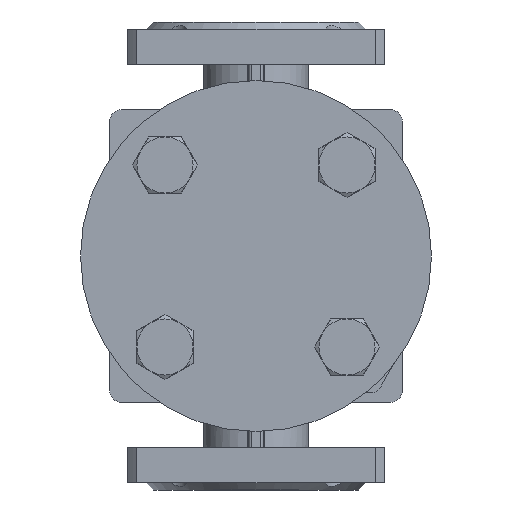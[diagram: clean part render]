
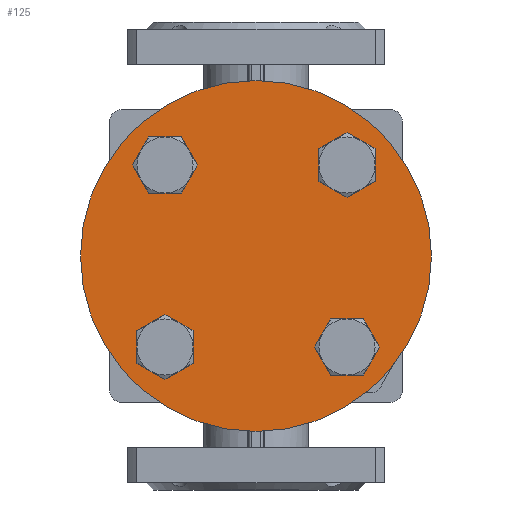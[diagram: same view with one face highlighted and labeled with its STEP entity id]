
A CAD part, front view. The second image highlights one B-rep face of the part: STEP entity #125.
In plain terms, the highlighted planar face has unit normal (0, -1, 0).
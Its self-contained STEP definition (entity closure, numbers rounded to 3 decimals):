
#125=ADVANCED_FACE('',(#9210,#9212,#9214,#9216,#9218),#9220,.F.);
#9210=FACE_BOUND('',#9211,.T.);
#9211=EDGE_LOOP('',(#22661));
#9212=FACE_BOUND('',#9213,.T.);
#9213=EDGE_LOOP('',(#22662));
#9214=FACE_BOUND('',#9215,.T.);
#9215=EDGE_LOOP('',(#22663));
#9216=FACE_BOUND('',#9217,.T.);
#9217=EDGE_LOOP('',(#22664));
#9218=FACE_BOUND('',#9219,.T.);
#9219=EDGE_LOOP('',(#22665));
#9220=PLANE('',#9221);
#9221=AXIS2_PLACEMENT_3D('',#9222,#9223,#9224);
#9222=CARTESIAN_POINT('',(0.,-120.,0.));
#9223=DIRECTION('',(0.,1.,0.));
#9224=DIRECTION('',(-1.,0.,0.));
#22661=ORIENTED_EDGE('',*,*,#30617,.F.);
#22662=ORIENTED_EDGE('',*,*,#30618,.F.);
#22663=ORIENTED_EDGE('',*,*,#30619,.F.);
#22664=ORIENTED_EDGE('',*,*,#30620,.F.);
#22665=ORIENTED_EDGE('',*,*,#30621,.F.);
#30617=EDGE_CURVE('',#34364,#34364,#34365,.T.);
#30618=EDGE_CURVE('',#34366,#34366,#34367,.T.);
#30619=EDGE_CURVE('',#34368,#34368,#34369,.T.);
#30620=EDGE_CURVE('',#34370,#34370,#34371,.T.);
#30621=EDGE_CURVE('',#34372,#34372,#34373,.T.);
#34364=VERTEX_POINT('',#40559);
#34365=CIRCLE('',#40560,75.);
#34366=VERTEX_POINT('',#40564);
#34367=CIRCLE('',#40565,12.);
#34368=VERTEX_POINT('',#40569);
#34369=CIRCLE('',#40570,12.);
#34370=VERTEX_POINT('',#40574);
#34371=CIRCLE('',#40575,12.);
#34372=VERTEX_POINT('',#40579);
#34373=CIRCLE('',#40580,12.);
#40559=CARTESIAN_POINT('',(-75.,-120.,0.));
#40560=AXIS2_PLACEMENT_3D('',#40561,#40562,#40563);
#40561=CARTESIAN_POINT('',(0.,-120.,0.));
#40562=DIRECTION('',(0.,1.,0.));
#40563=DIRECTION('',(-1.,0.,0.));
#40564=CARTESIAN_POINT('',(50.891,-120.,38.891));
#40565=AXIS2_PLACEMENT_3D('',#40566,#40567,#40568);
#40566=CARTESIAN_POINT('',(38.891,-120.,38.891));
#40567=DIRECTION('',(0.,-1.,0.));
#40568=DIRECTION('',(1.,0.,0.));
#40569=CARTESIAN_POINT('',(38.891,-120.,-50.891));
#40570=AXIS2_PLACEMENT_3D('',#40571,#40572,#40573);
#40571=CARTESIAN_POINT('',(38.891,-120.,-38.891));
#40572=DIRECTION('',(0.,-1.,0.));
#40573=DIRECTION('',(0.,0.,-1.));
#40574=CARTESIAN_POINT('',(-50.891,-120.,-38.891));
#40575=AXIS2_PLACEMENT_3D('',#40576,#40577,#40578);
#40576=CARTESIAN_POINT('',(-38.891,-120.,-38.891));
#40577=DIRECTION('',(0.,-1.,0.));
#40578=DIRECTION('',(-1.,0.,0.));
#40579=CARTESIAN_POINT('',(-38.891,-120.,50.891));
#40580=AXIS2_PLACEMENT_3D('',#40581,#40582,#40583);
#40581=CARTESIAN_POINT('',(-38.891,-120.,38.891));
#40582=DIRECTION('',(0.,-1.,0.));
#40583=DIRECTION('',(0.,0.,1.));
